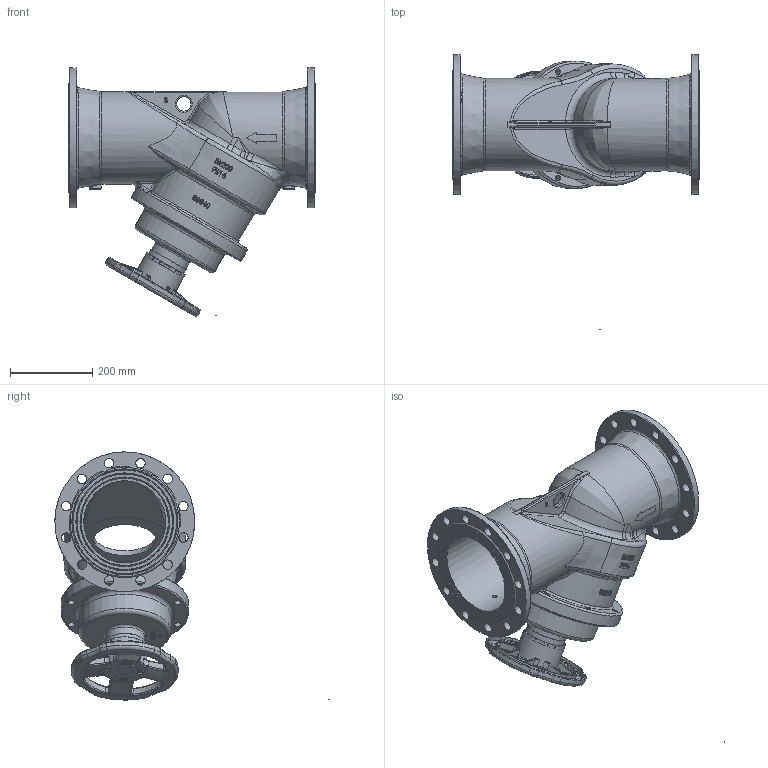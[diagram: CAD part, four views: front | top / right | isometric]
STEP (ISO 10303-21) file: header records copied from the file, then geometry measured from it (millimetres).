
FILE_DESCRIPTION(('STEP AP203'), '1');
FILE_NAME('3D_347-200-16', '', ('UNSPECIFIED'), ('UNSPECIFIED'), 'C3D Converter', 'C3D Toolkit', '');
FILE_SCHEMA(('CONFIG_CONTROL_DESIGN'));
Length unit declared in the file: millimetre
Assembly tree (11 placements, depth 2):
  (unnamed)
    (unnamed)
    (unnamed)
    (unnamed)
    (unnamed)
    (unnamed)
    (unnamed)
    (unnamed)
    (unnamed)
    (unnamed)
    (unnamed)
    (unnamed)
Bounding box: 600 x 666.87 x 603.56 mm (x, y, z)
Volume: 12706376 mm3; surface area: 1929576.5 mm2
Topology: 12 solids, 17 shells, 2597 faces, 6755 edges, 4354 vertices
Faces by surface type: plane 1365, bspline 524, cylinder 391, torus 166, cone 147, sphere 4
Full cylindrical faces by diameter (mm): 0.004 x6, 0.008 x3, 0.011 x3, 0.013 x9, 0.015 x3, 0.016 x8, 6.34 x4, 9 x4, 11 x1, 11.4 x2, 13.7 x2, 13.8 x8, 16 x1, 18 x8, 20 x1, 23 x24, 28 x3, 29 x1, 35 x1, 37 x1, 38.4 x1, 50 x1, 60 x1, 78 x1, 90 x1, 96 x2, 99 x1, 103 x1, 150 x1, 192 x2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
Entity records: 216023 total; most frequent: CARTESIAN_POINT 136232, ORIENTED_EDGE 12998, DIRECTION 10204, EDGE_CURVE 6499, VERTEX_POINT 4343, AXIS2_PLACEMENT_3D 3536, EDGE_LOOP 3144, LINE 3132
